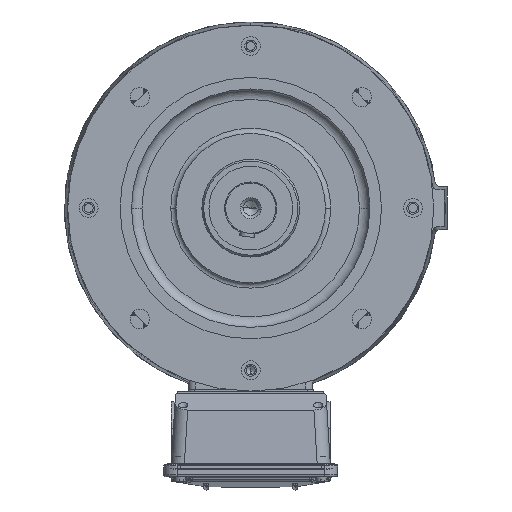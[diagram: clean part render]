
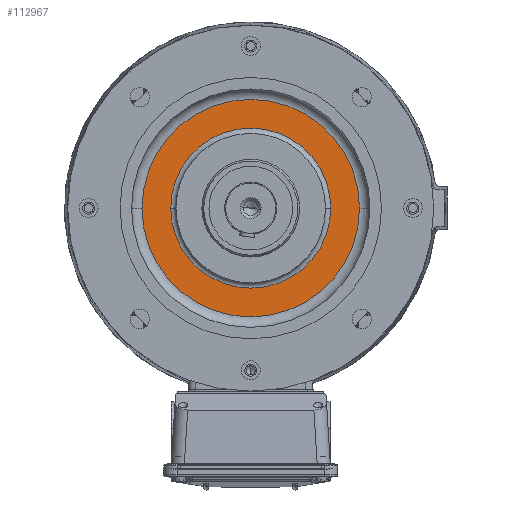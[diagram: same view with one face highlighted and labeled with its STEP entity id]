
A CAD part, left-side view. The second image highlights one B-rep face of the part: STEP entity #112967.
In plain terms, the highlighted planar face has unit normal (-1, 0, 0).
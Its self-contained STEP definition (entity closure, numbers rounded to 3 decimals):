
#6789 = AXIS2_PLACEMENT_3D ( 'NONE', #95346, #33920, #105654 ) ;
#7003 = VERTEX_POINT ( 'NONE', #110027 ) ;
#9056 = CARTESIAN_POINT ( 'NONE',  ( 22., 0., 76.5 ) ) ;
#10737 = EDGE_LOOP ( 'NONE', ( #70528, #110322 ) ) ;
#12423 = VERTEX_POINT ( 'NONE', #42285 ) ;
#15726 = PLANE ( 'NONE',  #123383 ) ;
#17288 = EDGE_CURVE ( 'NONE', #70843, #12423, #120270, .T. ) ;
#17840 = CIRCLE ( 'NONE', #6789, 76.5 ) ;
#19925 = CARTESIAN_POINT ( 'NONE',  ( 22., 0., 0. ) ) ;
#30291 = DIRECTION ( 'NONE',  ( 0., 0., 1. ) ) ;
#33920 = DIRECTION ( 'NONE',  ( -1., 0., 0. ) ) ;
#42265 = ORIENTED_EDGE ( 'NONE', *, *, #91171, .F. ) ;
#42285 = CARTESIAN_POINT ( 'NONE',  ( 22., 0., -104. ) ) ;
#46674 = VERTEX_POINT ( 'NONE', #9056 ) ;
#51326 = CARTESIAN_POINT ( 'NONE',  ( 22., 0., 0. ) ) ;
#54165 = FACE_BOUND ( 'NONE', #83047, .T. ) ;
#54361 = AXIS2_PLACEMENT_3D ( 'NONE', #19925, #91732, #30291 ) ;
#57197 = CARTESIAN_POINT ( 'NONE',  ( 22., 0., 0. ) ) ;
#61658 = DIRECTION ( 'NONE',  ( 0., 0., 1. ) ) ;
#67342 = DIRECTION ( 'NONE',  ( 0., 0., 1. ) ) ;
#67521 = DIRECTION ( 'NONE',  ( 0., 0., 1. ) ) ;
#67942 = ORIENTED_EDGE ( 'NONE', *, *, #117297, .F. ) ;
#69805 = AXIS2_PLACEMENT_3D ( 'NONE', #51326, #123111, #61658 ) ;
#70528 = ORIENTED_EDGE ( 'NONE', *, *, #17288, .T. ) ;
#70843 = VERTEX_POINT ( 'NONE', #78408 ) ;
#78408 = CARTESIAN_POINT ( 'NONE',  ( 22., 0., 104. ) ) ;
#83047 = EDGE_LOOP ( 'NONE', ( #67942, #42265 ) ) ;
#86809 = CIRCLE ( 'NONE', #69805, 76.5 ) ;
#86822 = CIRCLE ( 'NONE', #109974, 104. ) ;
#91171 = EDGE_CURVE ( 'NONE', #7003, #46674, #86809, .T. ) ;
#91732 = DIRECTION ( 'NONE',  ( -1., 0., 0. ) ) ;
#95346 = CARTESIAN_POINT ( 'NONE',  ( 22., 0., 0. ) ) ;
#105654 = DIRECTION ( 'NONE',  ( 0., 0., 1. ) ) ;
#108137 = CARTESIAN_POINT ( 'NONE',  ( 22., -104., 0. ) ) ;
#108790 = FACE_OUTER_BOUND ( 'NONE', #10737, .T. ) ;
#109974 = AXIS2_PLACEMENT_3D ( 'NONE', #57197, #128978, #67521 ) ;
#110027 = CARTESIAN_POINT ( 'NONE',  ( 22., 0., -76.5 ) ) ;
#110322 = ORIENTED_EDGE ( 'NONE', *, *, #117422, .T. ) ;
#112967 = ADVANCED_FACE ( 'NONE', ( #108790, #54165 ), #15726, .T. ) ;
#117297 = EDGE_CURVE ( 'NONE', #46674, #7003, #17840, .T. ) ;
#117422 = EDGE_CURVE ( 'NONE', #12423, #70843, #86822, .T. ) ;
#120270 = CIRCLE ( 'NONE', #54361, 104. ) ;
#123111 = DIRECTION ( 'NONE',  ( -1., 0., 0. ) ) ;
#123383 = AXIS2_PLACEMENT_3D ( 'NONE', #108137, #128799, #67342 ) ;
#128799 = DIRECTION ( 'NONE',  ( -1., 0., 0. ) ) ;
#128978 = DIRECTION ( 'NONE',  ( -1., 0., 0. ) ) ;
